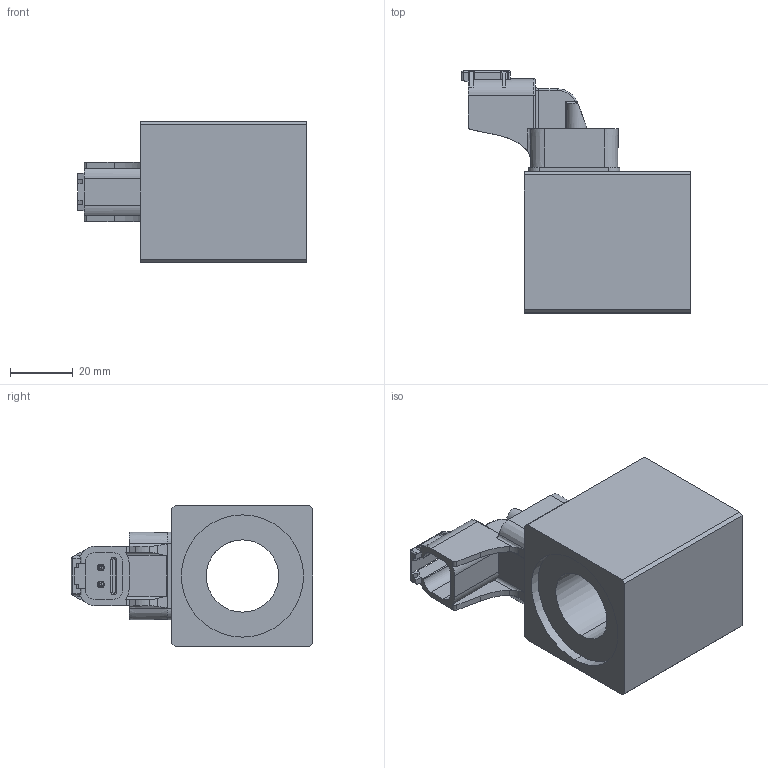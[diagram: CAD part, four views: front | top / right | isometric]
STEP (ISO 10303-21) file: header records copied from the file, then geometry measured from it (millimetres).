
FILE_DESCRIPTION (( 'STEP AP214' ), '1' );
FILE_NAME ('MGS45_23x50.STEP', '2014-07-14T11:27:08', ( '' ), ( '' ), 'SwSTEP 2.0', 'SolidWorks 2014', '' );
FILE_SCHEMA (( 'AUTOMOTIVE_DESIGN' ));
Length unit declared in the file: millimetre
Products named in the file (2): MGS45_23x50
Bounding box: 72.91 x 77.2 x 45 mm (x, y, z)
Volume: 91176.4 mm3; surface area: 31415.8 mm2
Topology: 9 solids, 9 shells, 481 faces, 1222 edges, 772 vertices
Faces by surface type: plane 216, cylinder 176, cone 40, torus 30, bspline 11, sphere 8
Entity records: 20503 total; most frequent: CARTESIAN_POINT 3412, DIRECTION 2455, ORIENTED_EDGE 2432, EDGE_CURVE 1216, AXIS2_PLACEMENT_3D 887, VERTEX_POINT 772, VECTOR 681, LINE 681
